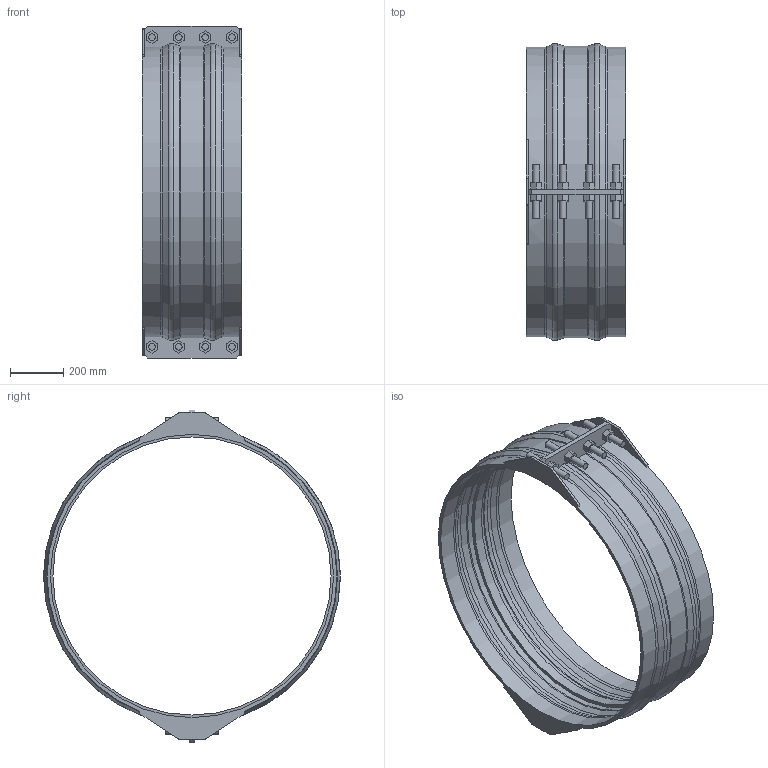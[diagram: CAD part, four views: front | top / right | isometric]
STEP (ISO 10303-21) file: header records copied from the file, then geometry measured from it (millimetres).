
FILE_DESCRIPTION(/* description */ ('VIC RESTRAINED COUPLING STYLE 233 (FLEX) (BRD)','CAx-IF Rec.Pracs.---Representation and Presentation of Product Manufacturing Information (PMI)---4.0---2014-10-13'),/* implementation_level */ '2;1');
FILE_NAME(/* name */ 'C:\Users\Vjadhav\Desktop\CAD for Inventor\Test for STEP\Vivek\Adsk_Inventor_Bolted Sleeve_iParts\STEP\Victaulic_VBSP_Coupling Flexible Restrained_Style 233 (BRD)\Victaulic_VBSP_Coupling Flexible Restrained_Style 233 (BRD)_300psi_42 (1050).stp',/* time_stamp */ '2020-09-24T12:29:57+06:00',/* author */ ('Vjadhav'),/* organization */ ('Victaulic'),/* preprocessor_version */ 'ST-DEVELOPER v17.2',/* originating_system */ 'Autodesk Inventor 2019',/* authorisation */ '');
FILE_SCHEMA (('AP242_MANAGED_MODEL_BASED_3D_ENGINEERING_MIM_LF { 1 0 10303 442 1 1 4 }'));
Length unit declared in the file: inch
Products named in the file (1): Style_233_Type_2_300psi-42.0
Bounding box: 374.65 x 1118.89 x 1250.95 mm (x, y, z)
Volume: 20840489.6 mm3; surface area: 3169138.3 mm2
Topology: 1 solids, 1 shells, 239 faces, 625 edges, 422 vertices
Faces by surface type: plane 166, cylinder 43, torus 18, cone 12
Full cylindrical faces by diameter (mm): 25.4 x16, 1047.75 x1, 1066.8 x2, 1073.15 x2
Entity records: 7888 total; most frequent: CARTESIAN_POINT 1512, DIRECTION 1251, ORIENTED_EDGE 1250, EDGE_CURVE 625, LINE 441, VECTOR 441, VERTEX_POINT 422, AXIS2_PLACEMENT_3D 405
